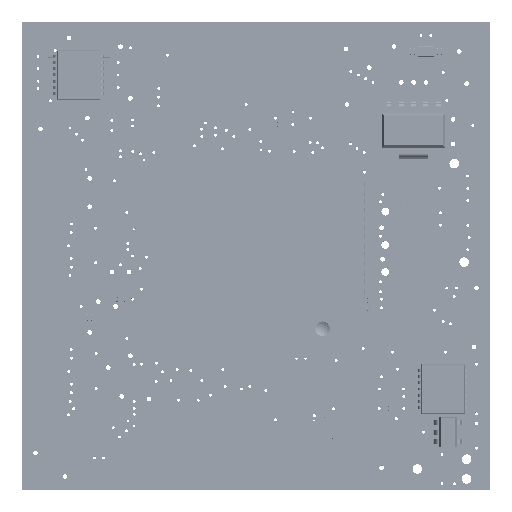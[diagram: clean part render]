
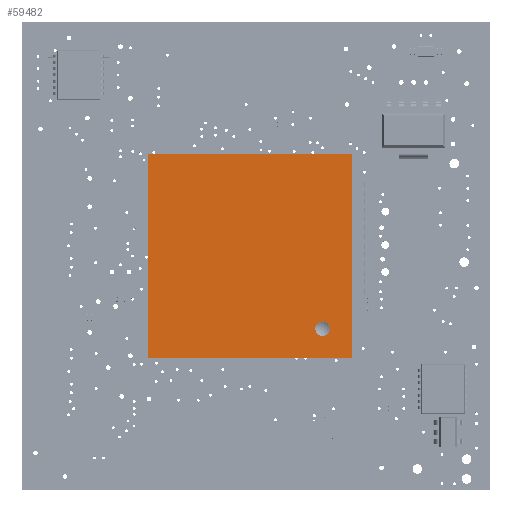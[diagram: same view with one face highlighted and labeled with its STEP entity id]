
A CAD part, top view. The second image highlights one B-rep face of the part: STEP entity #59482.
In plain terms, the highlighted planar face has unit normal (0, 0, 1) as drawn and (0, 1, 0) by its records, which use the part's own axes.
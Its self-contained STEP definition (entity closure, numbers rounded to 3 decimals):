
#5520=FACE_BOUND('',#12349,.T.);
#5689=PLANE('',#64458);
#8403=FACE_OUTER_BOUND('',#12348,.T.);
#12348=EDGE_LOOP('',(#44956,#44957,#44958,#44959));
#12349=EDGE_LOOP('',(#44960));
#15557=LINE('',#88419,#21358);
#15558=LINE('',#88421,#21359);
#15559=LINE('',#88423,#21360);
#15560=LINE('',#88424,#21361);
#21358=VECTOR('',#71898,10.);
#21359=VECTOR('',#71899,10.);
#21360=VECTOR('',#71900,10.);
#21361=VECTOR('',#71901,10.);
#27707=CIRCLE('',#64457,0.748);
#29995=VERTEX_POINT('',#88414);
#29996=VERTEX_POINT('',#88417);
#29997=VERTEX_POINT('',#88418);
#29998=VERTEX_POINT('',#88420);
#29999=VERTEX_POINT('',#88422);
#35683=EDGE_CURVE('',#29995,#29995,#27707,.T.);
#35684=EDGE_CURVE('',#29996,#29997,#15557,.T.);
#35685=EDGE_CURVE('',#29997,#29998,#15558,.T.);
#35686=EDGE_CURVE('',#29998,#29999,#15559,.T.);
#35687=EDGE_CURVE('',#29999,#29996,#15560,.T.);
#44956=ORIENTED_EDGE('',*,*,#35684,.T.);
#44957=ORIENTED_EDGE('',*,*,#35685,.T.);
#44958=ORIENTED_EDGE('',*,*,#35686,.T.);
#44959=ORIENTED_EDGE('',*,*,#35687,.T.);
#44960=ORIENTED_EDGE('',*,*,#35683,.T.);
#59482=ADVANCED_FACE('',(#8403,#5520),#5689,.T.);
#64457=AXIS2_PLACEMENT_3D('',#88415,#71894,#71895);
#64458=AXIS2_PLACEMENT_3D('',#88416,#71896,#71897);
#71894=DIRECTION('center_axis',(0.,-1.,0.));
#71895=DIRECTION('ref_axis',(0.,0.,-1.));
#71896=DIRECTION('center_axis',(0.,1.,0.));
#71897=DIRECTION('ref_axis',(0.,0.,-1.));
#71898=DIRECTION('',(-1.,0.,0.));
#71899=DIRECTION('',(0.,0.,1.));
#71900=DIRECTION('',(1.,0.,0.));
#71901=DIRECTION('',(0.,0.,-1.));
#88414=CARTESIAN_POINT('',(3.,1.85,-2.252));
#88415=CARTESIAN_POINT('Origin',(3.,1.85,-3.));
#88416=CARTESIAN_POINT('Origin',(13.5,1.85,-13.5));
#88417=CARTESIAN_POINT('',(21.,1.85,-21.));
#88418=CARTESIAN_POINT('',(0.,1.85,-21.));
#88419=CARTESIAN_POINT('',(13.5,1.85,-21.));
#88420=CARTESIAN_POINT('',(0.,1.85,0.));
#88421=CARTESIAN_POINT('',(0.,1.85,-13.5));
#88422=CARTESIAN_POINT('',(21.,1.85,0.));
#88423=CARTESIAN_POINT('',(13.5,1.85,0.));
#88424=CARTESIAN_POINT('',(21.,1.85,-13.5));
